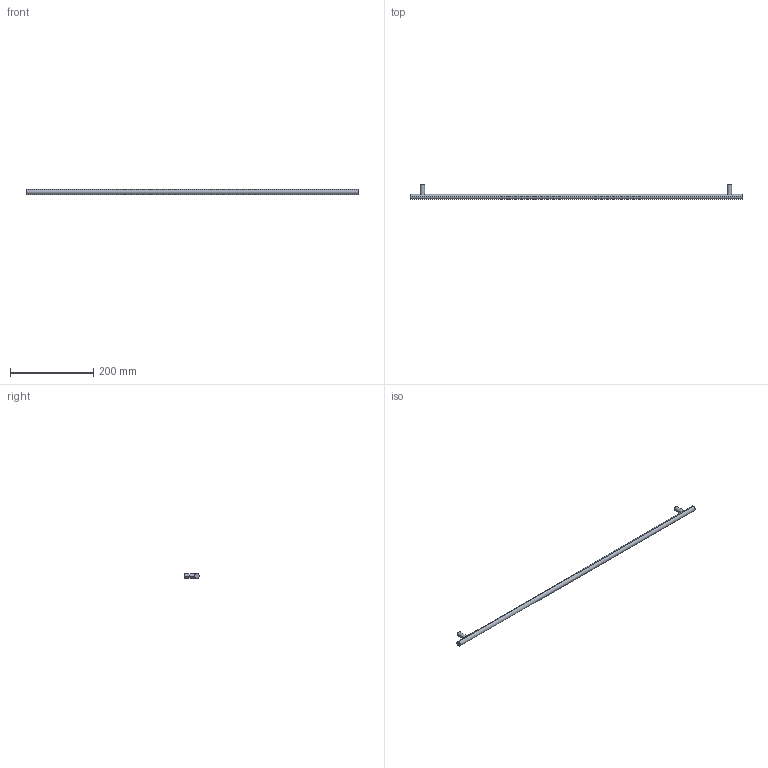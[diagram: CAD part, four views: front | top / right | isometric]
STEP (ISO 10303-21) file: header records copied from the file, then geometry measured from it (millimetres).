
FILE_DESCRIPTION( ( '' ), '1' );
FILE_NAME( 'D:/1.AUTOCAD EXPORT/Group 10/sheet_10_1/9071038.stp', '2013-10-21T10:29:28', ( '' ), ( '' ), ' ', ' ', ' ' );
FILE_SCHEMA( ( 'automotive_design' ) );
Length unit declared in the file: millimetre
Products named in the file (1): 1
Bounding box: 796 x 35 x 12 mm (x, y, z)
Volume: 93427.9 mm3; surface area: 32040.1 mm2
Topology: 1 solids, 1 shells, 16 faces, 32 edges, 22 vertices
Faces by surface type: cylinder 10, plane 6
Entity records: 972 total; most frequent: CARTESIAN_POINT 205, DIRECTION 76, STYLED_ITEM 71, PRESENTATION_STYLE_ASSIGNMENT 71, COLOUR_RGB 71, ORIENTED_EDGE 64, AXIS2_PLACEMENT_3D 33, EDGE_CURVE 32
